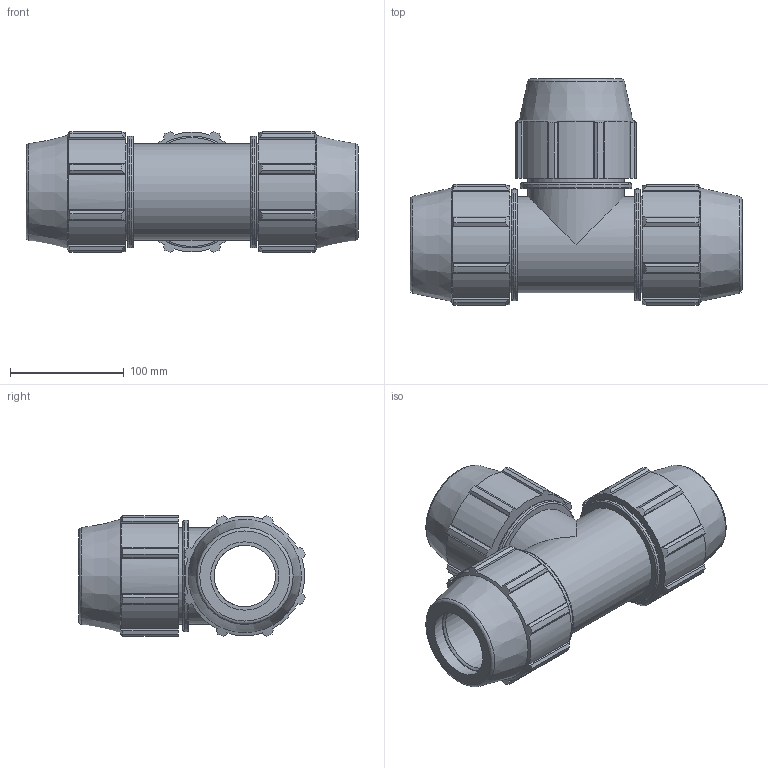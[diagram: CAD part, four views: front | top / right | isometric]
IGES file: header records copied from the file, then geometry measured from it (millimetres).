
Global section: file name: 0704M0200.ipt; native system: Autodesk Inventor 2019; preprocessor: unknown; author: KIM; date: 20210826.124545; units: inch
Bounding box: 292.1 x 199.23 x 106.35 mm (x, y, z)
Volume: 1768835.5 mm3; surface area: 230991.3 mm2
Topology: 1 solids, 1 shells, 212 faces, 606 edges, 411 vertices
Faces by surface type: plane 114, cylinder 56, cone 22, revolution 20
Full cylindrical faces by diameter (mm): 84.772 x5, 98.336 x3
